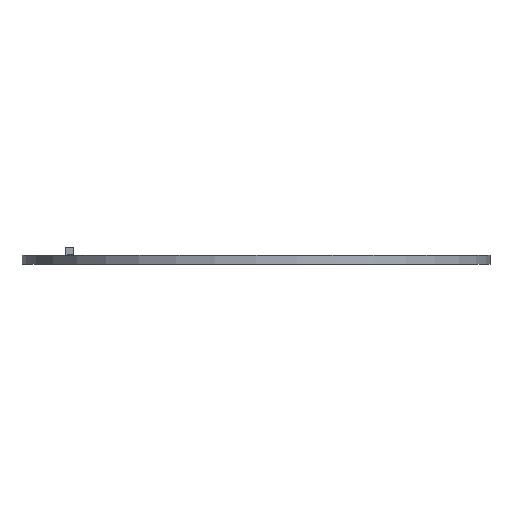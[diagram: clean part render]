
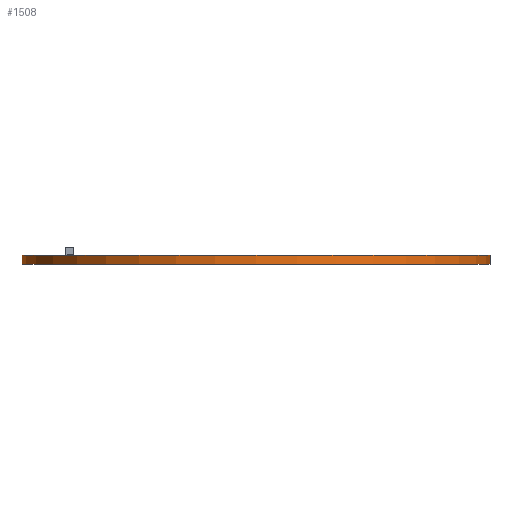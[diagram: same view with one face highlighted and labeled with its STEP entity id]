
A CAD part, front view. The second image highlights one B-rep face of the part: STEP entity #1508.
In plain terms, the highlighted cylindrical face has radius 25 mm (diameter 50 mm), a partial arc.
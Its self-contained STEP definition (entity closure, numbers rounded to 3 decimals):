
#57 = CIRCLE ( 'NONE', #268, 25. ) ;
#146 = EDGE_LOOP ( 'NONE', ( #3157, #3191, #2603, #908 ) ) ;
#169 = DIRECTION ( 'NONE',  ( 0., 0., 1. ) ) ;
#172 = DIRECTION ( 'NONE',  ( 0., 0., 1. ) ) ;
#213 = AXIS2_PLACEMENT_3D ( 'NONE', #3122, #172, #869 ) ;
#268 = AXIS2_PLACEMENT_3D ( 'NONE', #1792, #2177, #1141 ) ;
#361 = CARTESIAN_POINT ( 'NONE',  ( 25., 0., 0. ) ) ;
#457 = CARTESIAN_POINT ( 'NONE',  ( -25., 0., -1. ) ) ;
#555 = EDGE_CURVE ( 'NONE', #2439, #1778, #1137, .T. ) ;
#629 = DIRECTION ( 'NONE',  ( 1., 0., 0. ) ) ;
#686 = CARTESIAN_POINT ( 'NONE',  ( 25., 0., -1. ) ) ;
#798 = VERTEX_POINT ( 'NONE', #2944 ) ;
#869 = DIRECTION ( 'NONE',  ( 1., 0., 0. ) ) ;
#899 = CARTESIAN_POINT ( 'NONE',  ( 0., 0., -1. ) ) ;
#908 = ORIENTED_EDGE ( 'NONE', *, *, #1463, .F. ) ;
#1137 = LINE ( 'NONE', #1386, #2064 ) ;
#1141 = DIRECTION ( 'NONE',  ( 1., 0., 0. ) ) ;
#1386 = CARTESIAN_POINT ( 'NONE',  ( 25., 0., -1. ) ) ;
#1391 = CYLINDRICAL_SURFACE ( 'NONE', #213, 25. ) ;
#1461 = DIRECTION ( 'NONE',  ( 0., 0., 1. ) ) ;
#1463 = EDGE_CURVE ( 'NONE', #2911, #1778, #57, .T. ) ;
#1508 = ADVANCED_FACE ( 'NONE', ( #2389 ), #1391, .T. ) ;
#1563 = AXIS2_PLACEMENT_3D ( 'NONE', #899, #3152, #629 ) ;
#1670 = EDGE_CURVE ( 'NONE', #798, #2911, #2720, .T. ) ;
#1778 = VERTEX_POINT ( 'NONE', #361 ) ;
#1792 = CARTESIAN_POINT ( 'NONE',  ( 0., 0., 0. ) ) ;
#2044 = VECTOR ( 'NONE', #1461, 1000. ) ;
#2064 = VECTOR ( 'NONE', #169, 1000. ) ;
#2177 = DIRECTION ( 'NONE',  ( 0., 0., 1. ) ) ;
#2349 = EDGE_CURVE ( 'NONE', #798, #2439, #2833, .T. ) ;
#2389 = FACE_OUTER_BOUND ( 'NONE', #146, .T. ) ;
#2439 = VERTEX_POINT ( 'NONE', #686 ) ;
#2603 = ORIENTED_EDGE ( 'NONE', *, *, #555, .T. ) ;
#2720 = LINE ( 'NONE', #457, #2044 ) ;
#2833 = CIRCLE ( 'NONE', #1563, 25. ) ;
#2911 = VERTEX_POINT ( 'NONE', #2935 ) ;
#2935 = CARTESIAN_POINT ( 'NONE',  ( -25., 0., 0. ) ) ;
#2944 = CARTESIAN_POINT ( 'NONE',  ( -25., 0., -1. ) ) ;
#3122 = CARTESIAN_POINT ( 'NONE',  ( 0., 0., -1. ) ) ;
#3152 = DIRECTION ( 'NONE',  ( 0., 0., 1. ) ) ;
#3157 = ORIENTED_EDGE ( 'NONE', *, *, #1670, .F. ) ;
#3191 = ORIENTED_EDGE ( 'NONE', *, *, #2349, .T. ) ;
